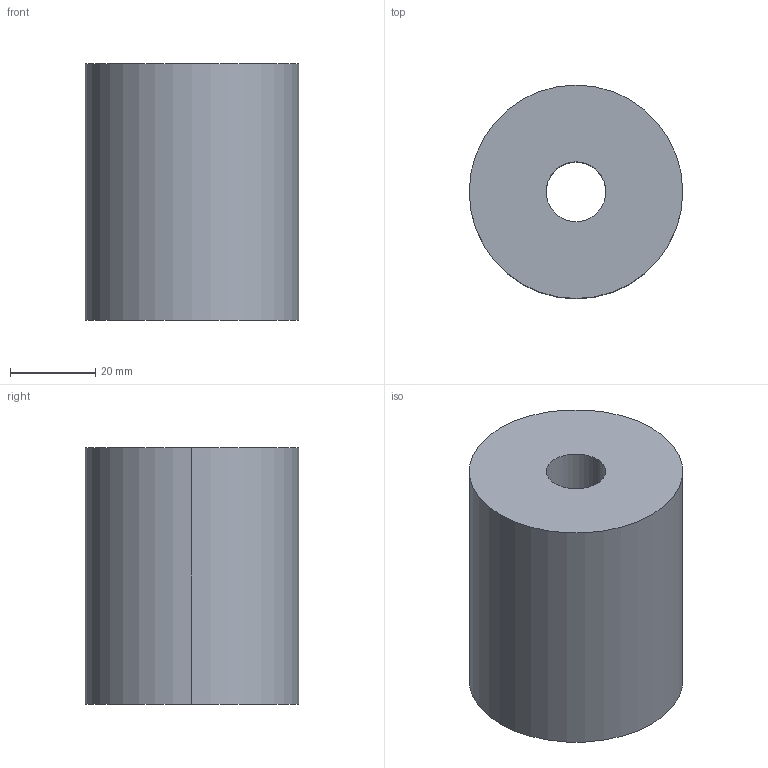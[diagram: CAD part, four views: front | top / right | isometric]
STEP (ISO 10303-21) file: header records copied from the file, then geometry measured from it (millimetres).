
FILE_DESCRIPTION(/* description */ (''),/* implementation_level */ '2;1');
FILE_NAME(/* name */ '3d_pa50-60_04906_r00.stp',/* time_stamp */ '2011-01-10T14:11:58+09:00',/* author */ ('MISUMI'),/* organization */ (''),/* preprocessor_version */ 'ST-DEVELOPER v11',/* originating_system */ 'UGS - NX 5.0',/* authorisation */ '');
FILE_SCHEMA (('CONFIG_CONTROL_DESIGN'));
Length unit declared in the file: millimetre
Products named in the file (1): 3d_pa50-60_04906_r00
Bounding box: 50 x 50 x 60 mm (x, y, z)
Volume: 108573.4 mm3; surface area: 15682.8 mm2
Topology: 1 solids, 1 shells, 6 faces, 12 edges, 8 vertices
Faces by surface type: cylinder 4, plane 2
Entity records: 254 total; most frequent: DIRECTION 34, CARTESIAN_POINT 27, ORIENTED_EDGE 24, AXIS2_PLACEMENT_3D 15, EDGE_CURVE 12, EDGE_LOOP 8, VERTEX_POINT 8, CIRCLE 8
